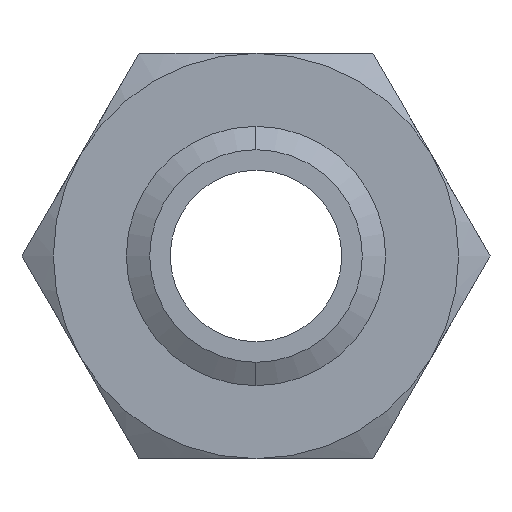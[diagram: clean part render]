
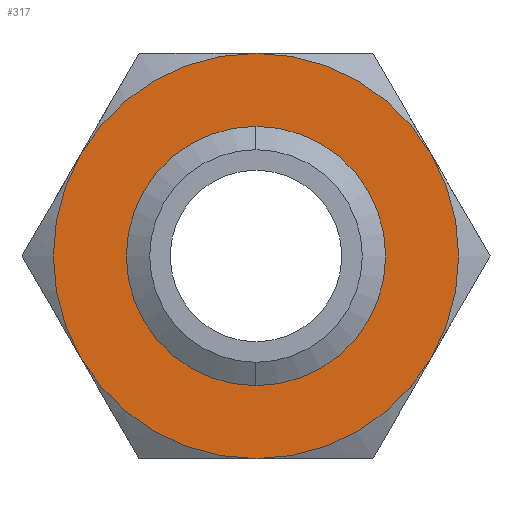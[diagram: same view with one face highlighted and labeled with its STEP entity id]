
A CAD part, front view. The second image highlights one B-rep face of the part: STEP entity #317.
In plain terms, the highlighted planar face has unit normal (0, -1, 0).
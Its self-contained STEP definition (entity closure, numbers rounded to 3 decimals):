
#1 = EDGE_CURVE ( 'NONE', #2123, #2125, #402, .T. ) ;
#253 = ORIENTED_EDGE ( 'NONE', *, *, #254, .F. ) ;
#254 = EDGE_CURVE ( 'NONE', #2125, #2123, #855, .T. ) ;
#317 = ADVANCED_FACE ( 'NONE', ( #968, #967 ), #966, .F. ) ;
#318 = EDGE_LOOP ( 'NONE', ( #319, #361, #364, #367, #370, #373 ) ) ;
#319 = ORIENTED_EDGE ( 'NONE', *, *, #320, .F. ) ;
#320 = EDGE_CURVE ( 'NONE', #321, #322, #963, .T. ) ;
#321 = VERTEX_POINT ( 'NONE', #956 ) ;
#322 = VERTEX_POINT ( 'NONE', #955 ) ;
#331 = EDGE_CURVE ( 'NONE', #322, #372, #994, .T. ) ;
#332 = ORIENTED_EDGE ( 'NONE', *, *, #1, .F. ) ;
#361 = ORIENTED_EDGE ( 'NONE', *, *, #362, .F. ) ;
#362 = EDGE_CURVE ( 'NONE', #363, #321, #1098, .T. ) ;
#363 = VERTEX_POINT ( 'NONE', #1093 ) ;
#364 = ORIENTED_EDGE ( 'NONE', *, *, #365, .F. ) ;
#365 = EDGE_CURVE ( 'NONE', #366, #363, #1092, .T. ) ;
#366 = VERTEX_POINT ( 'NONE', #1087 ) ;
#367 = ORIENTED_EDGE ( 'NONE', *, *, #368, .F. ) ;
#368 = EDGE_CURVE ( 'NONE', #369, #366, #1086, .T. ) ;
#369 = VERTEX_POINT ( 'NONE', #1081 ) ;
#370 = ORIENTED_EDGE ( 'NONE', *, *, #371, .F. ) ;
#371 = EDGE_CURVE ( 'NONE', #372, #369, #1080, .T. ) ;
#372 = VERTEX_POINT ( 'NONE', #1075 ) ;
#373 = ORIENTED_EDGE ( 'NONE', *, *, #331, .F. ) ;
#374 = EDGE_LOOP ( 'NONE', ( #332, #253 ) ) ;
#398 = DIRECTION ( 'NONE',  ( 0., 0., -1. ) ) ;
#399 = DIRECTION ( 'NONE',  ( 0., -1., 0. ) ) ;
#400 = CARTESIAN_POINT ( 'NONE',  ( 0., 0., 0. ) ) ;
#401 = AXIS2_PLACEMENT_3D ( 'NONE', #400, #399, #398 ) ;
#402 = CIRCLE ( 'NONE', #401, 19.67 ) ;
#846 = DIRECTION ( 'NONE',  ( 0., 0., -1. ) ) ;
#847 = DIRECTION ( 'NONE',  ( 0., -1., 0. ) ) ;
#848 = CARTESIAN_POINT ( 'NONE',  ( 0., 0., 0. ) ) ;
#849 = AXIS2_PLACEMENT_3D ( 'NONE', #848, #847, #846 ) ;
#855 = CIRCLE ( 'NONE', #849, 19.67 ) ;
#955 = CARTESIAN_POINT ( 'NONE',  ( 32.476, 0., 18.75 ) ) ;
#956 = CARTESIAN_POINT ( 'NONE',  ( 0., 0., 37.5 ) ) ;
#957 = DIRECTION ( 'NONE',  ( 0., 0., 1. ) ) ;
#958 = DIRECTION ( 'NONE',  ( 0., 1., 0. ) ) ;
#959 = CARTESIAN_POINT ( 'NONE',  ( 0., 0., 0. ) ) ;
#960 = AXIS2_PLACEMENT_3D ( 'NONE', #959, #958, #957 ) ;
#961 = DIRECTION ( 'NONE',  ( 0., 0., 1. ) ) ;
#962 = DIRECTION ( 'NONE',  ( 0., 1., 0. ) ) ;
#963 = CIRCLE ( 'NONE', #960, 37.5 ) ;
#964 = CARTESIAN_POINT ( 'NONE',  ( 21.651, 0., -37.5 ) ) ;
#965 = AXIS2_PLACEMENT_3D ( 'NONE', #964, #962, #961 ) ;
#966 = PLANE ( 'NONE',  #965 ) ;
#967 = FACE_BOUND ( 'NONE', #374, .T. ) ;
#968 = FACE_OUTER_BOUND ( 'NONE', #318, .T. ) ;
#990 = DIRECTION ( 'NONE',  ( 0., 0., 1. ) ) ;
#991 = DIRECTION ( 'NONE',  ( 0., 1., 0. ) ) ;
#992 = CARTESIAN_POINT ( 'NONE',  ( 0., 0., 0. ) ) ;
#993 = AXIS2_PLACEMENT_3D ( 'NONE', #992, #991, #990 ) ;
#994 = CIRCLE ( 'NONE', #993, 37.5 ) ;
#1075 = CARTESIAN_POINT ( 'NONE',  ( 32.476, 0., -18.75 ) ) ;
#1076 = DIRECTION ( 'NONE',  ( 0., 0., 1. ) ) ;
#1077 = DIRECTION ( 'NONE',  ( 0., 1., 0. ) ) ;
#1078 = CARTESIAN_POINT ( 'NONE',  ( 0., 0., 0. ) ) ;
#1079 = AXIS2_PLACEMENT_3D ( 'NONE', #1078, #1077, #1076 ) ;
#1080 = CIRCLE ( 'NONE', #1079, 37.5 ) ;
#1081 = CARTESIAN_POINT ( 'NONE',  ( 0., 0., -37.5 ) ) ;
#1082 = DIRECTION ( 'NONE',  ( 0., 0., 1. ) ) ;
#1083 = DIRECTION ( 'NONE',  ( 0., 1., 0. ) ) ;
#1084 = CARTESIAN_POINT ( 'NONE',  ( 0., 0., 0. ) ) ;
#1085 = AXIS2_PLACEMENT_3D ( 'NONE', #1084, #1083, #1082 ) ;
#1086 = CIRCLE ( 'NONE', #1085, 37.5 ) ;
#1087 = CARTESIAN_POINT ( 'NONE',  ( -32.476, 0., -18.75 ) ) ;
#1088 = DIRECTION ( 'NONE',  ( 0., 0., 1. ) ) ;
#1089 = DIRECTION ( 'NONE',  ( 0., 1., 0. ) ) ;
#1090 = CARTESIAN_POINT ( 'NONE',  ( 0., 0., 0. ) ) ;
#1091 = AXIS2_PLACEMENT_3D ( 'NONE', #1090, #1089, #1088 ) ;
#1092 = CIRCLE ( 'NONE', #1091, 37.5 ) ;
#1093 = CARTESIAN_POINT ( 'NONE',  ( -32.476, 0., 18.75 ) ) ;
#1094 = DIRECTION ( 'NONE',  ( 0., 0., 1. ) ) ;
#1095 = DIRECTION ( 'NONE',  ( 0., 1., 0. ) ) ;
#1096 = CARTESIAN_POINT ( 'NONE',  ( 0., 0., 0. ) ) ;
#1097 = AXIS2_PLACEMENT_3D ( 'NONE', #1096, #1095, #1094 ) ;
#1098 = CIRCLE ( 'NONE', #1097, 37.5 ) ;
#1695 = CARTESIAN_POINT ( 'NONE',  ( 0., 0., 19.67 ) ) ;
#1701 = CARTESIAN_POINT ( 'NONE',  ( 0., 0., -19.67 ) ) ;
#2123 = VERTEX_POINT ( 'NONE', #1701 ) ;
#2125 = VERTEX_POINT ( 'NONE', #1695 ) ;
